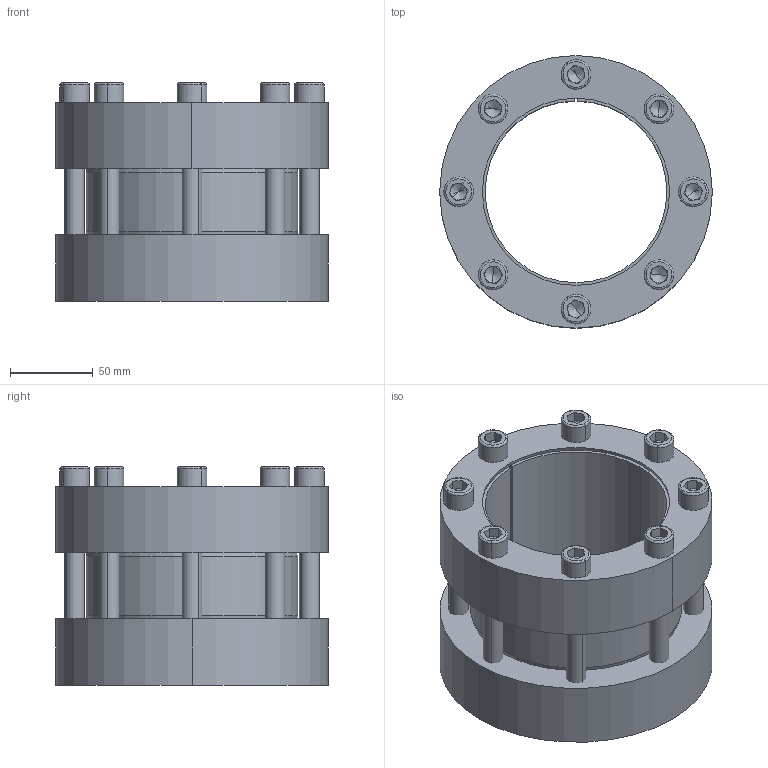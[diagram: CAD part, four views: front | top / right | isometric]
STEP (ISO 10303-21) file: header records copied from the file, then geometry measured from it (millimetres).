
FILE_DESCRIPTION (( 'STEP AP214' ), '1' );
FILE_NAME ('CONEX-M-110x165.step', '2013-04-06T13:26:13', ( 'Pc' ), ( '' ), 'SwSTEP 2.0', 'SolidWorks 2013', '' );
FILE_SCHEMA (( 'AUTOMOTIVE_DESIGN' ));
Length unit declared in the file: millimetre
Products named in the file (1): CONEX-M-110x165
Bounding box: 165 x 165 x 132 mm (x, y, z)
Volume: 1121122.4 mm3; surface area: 261038.4 mm2
Topology: 11 solids, 11 shells, 276 faces, 622 edges, 368 vertices
Faces by surface type: plane 128, cylinder 74, cone 42, torus 32
Entity records: 10804 total; most frequent: DIRECTION 1446, CARTESIAN_POINT 1275, ORIENTED_EDGE 1212, EDGE_CURVE 606, AXIS2_PLACEMENT_3D 567, VERTEX_POINT 368, EDGE_LOOP 328, LINE 312
